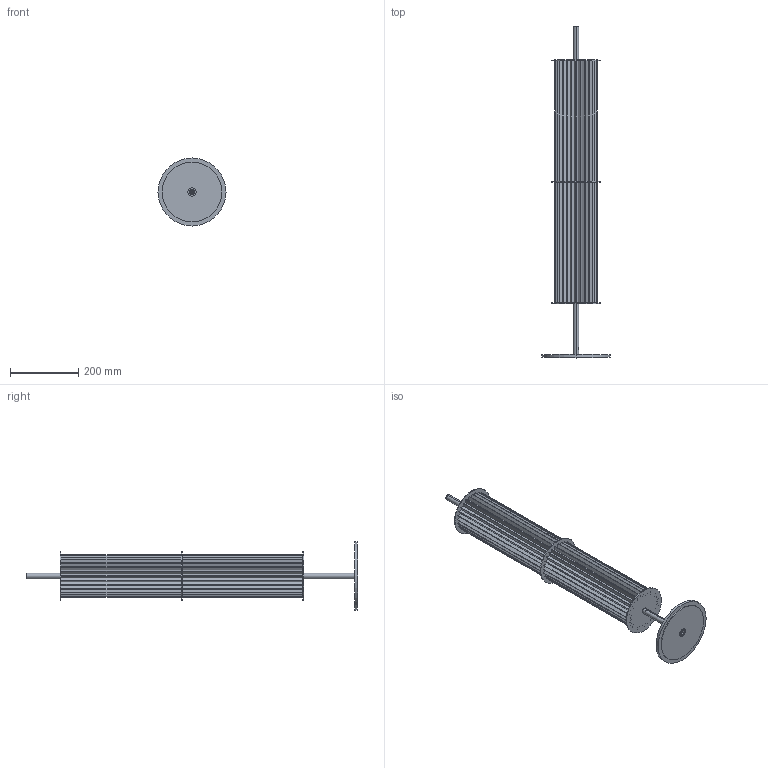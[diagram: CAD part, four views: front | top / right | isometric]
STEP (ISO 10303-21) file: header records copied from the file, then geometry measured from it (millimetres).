
FILE_DESCRIPTION (( 'STEP AP203' ), '1' );
FILE_NAME ('OR.F072.14.STEP', '2026-03-16T14:09:00', ( '' ), ( '' ), 'SwSTEP 2.0', 'SolidWorks 2013', '' );
FILE_SCHEMA (( 'CONFIG_CONTROL_DESIGN' ));
Length unit declared in the file: millimetre
Products named in the file (9): DIN7991 M5x15; GI464-Disc Ø145x2_pas 101; base cautxu Ø175; OR.F072.14; TP477_Pantalla plisada ORI (24 plecs); GI463-Disc Ø145x2_pas 10; ME053_Disco base Ø200x8_agujero para tornillo DIN7991 M8; ME051_Tub Ø16x100_M10x1; ME052_Tija Ø16x150 M8
Assembly tree (10 placements, depth 2):
  OR.F072.14
    GI463-Disc Ø145x2_pas 10  x2
    TP477_Pantalla plisada ORI (24 plecs)  x2
    GI464-Disc Ø145x2_pas 101
    ME052_Tija Ø16x150 M8
    ME051_Tub Ø16x100_M10x1
    ME053_Disco base Ø200x8_agujero para tornillo DIN7991 M8
    base cautxu Ø175
    DIN7991 M5x15
Bounding box: 200 x 976 x 200 mm (x, y, z)
Volume: 623195.2 mm3; surface area: 1109655.1 mm2
Topology: 10 solids, 10 shells, 518 faces, 1462 edges, 972 vertices
Faces by surface type: plane 316, cylinder 196, cone 6
Entity records: 10645 total; most frequent: CARTESIAN_POINT 1879, DIRECTION 1650, ORIENTED_EDGE 1616, EDGE_CURVE 808, VECTOR 568, LINE 568, AXIS2_PLACEMENT_3D 541, VERTEX_POINT 536
